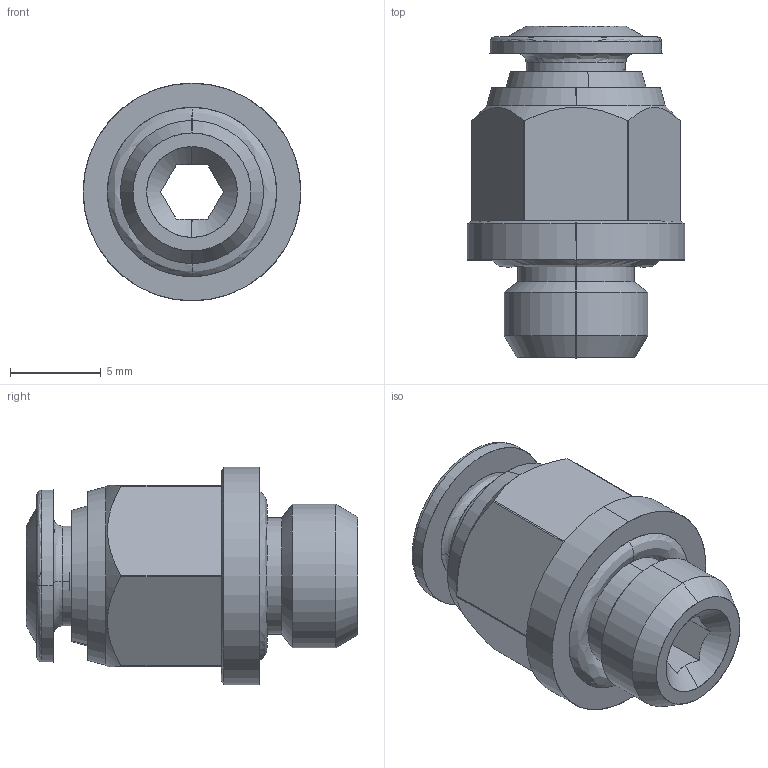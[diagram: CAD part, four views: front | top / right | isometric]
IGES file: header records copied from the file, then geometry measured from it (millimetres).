
Start section: SolidWorks IGES file using analytic representation for surfaces
Global section: file name: K:\Disegni Esecutivi\SERIE 57000\ASSIEMI_57000\57020\IGES e STEP new size\5702000046A.IGS; native system: SolidWorks 2020; preprocessor: SolidWorks 2020; author: CAD13; date: 241028.164106; units: millimetre
Bounding box: 12 x 18.3 x 12 mm (x, y, z)
Surface area: 1036.2 mm2 (no closed solid volume)
Topology: 0 solids, 0 shells, 74 faces, 958 edges, 958 vertices
Faces by surface type: bspline 37, revolution 37
